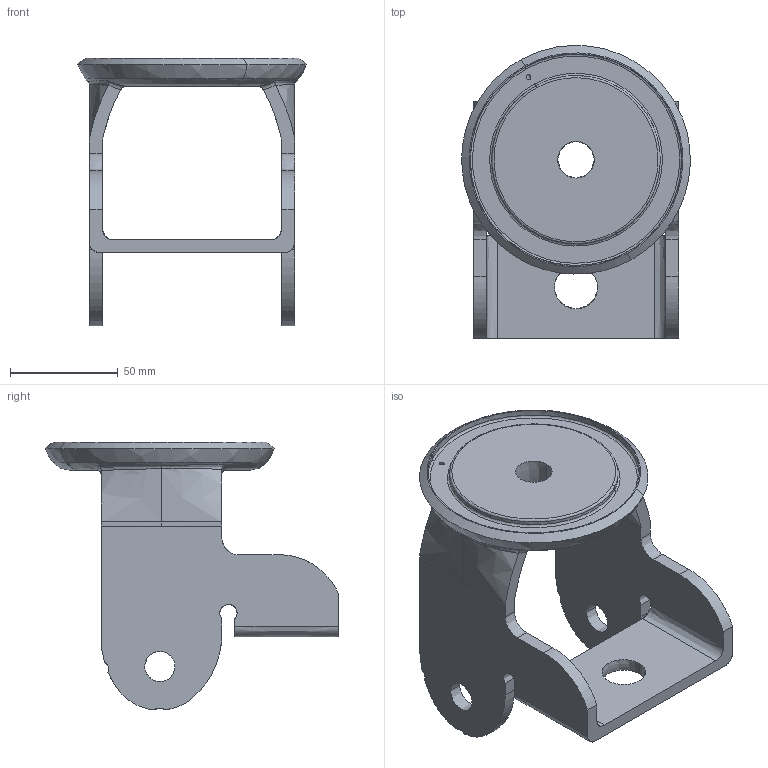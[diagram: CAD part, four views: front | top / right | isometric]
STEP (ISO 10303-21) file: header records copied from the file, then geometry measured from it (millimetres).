
FILE_DESCRIPTION (( 'STEP AP214' ), '1' );
FILE_NAME ('KTU-150WJ-GS-20.STEP', '2018-08-30T06:53:03', ( '' ), ( '' ), 'SwSTEP 2.0', 'SolidWorks 2010', '' );
FILE_SCHEMA (( 'AUTOMOTIVE_DESIGN' ));
Length unit declared in the file: millimetre
Products named in the file (1): KTU-150WJ-GS-20
Bounding box: 105.96 x 135.75 x 124.11 mm (x, y, z)
Volume: 203900.6 mm3; surface area: 63790.4 mm2
Topology: 1 solids, 1 shells, 100 faces, 1030 edges, 931 vertices
Faces by surface type: bspline 80, plane 20
Entity records: 19030 total; most frequent: CARTESIAN_POINT 13448, ORIENTED_EDGE 2060, EDGE_CURVE 1030, B_SPLINE_CURVE_WITH_KNOTS 1026, VERTEX_POINT 931, EDGE_LOOP 111, ADVANCED_FACE 100, FACE_OUTER_BOUND 100
